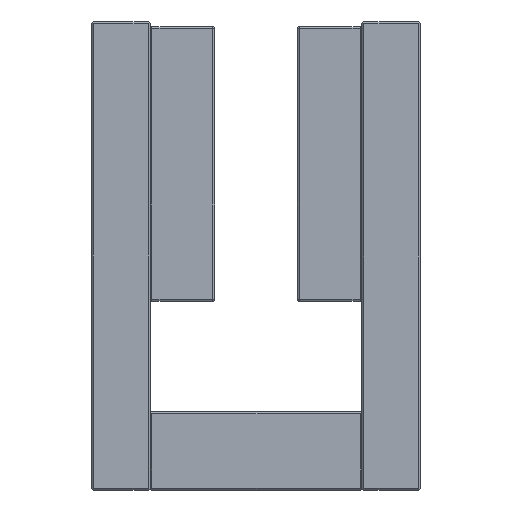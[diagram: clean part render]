
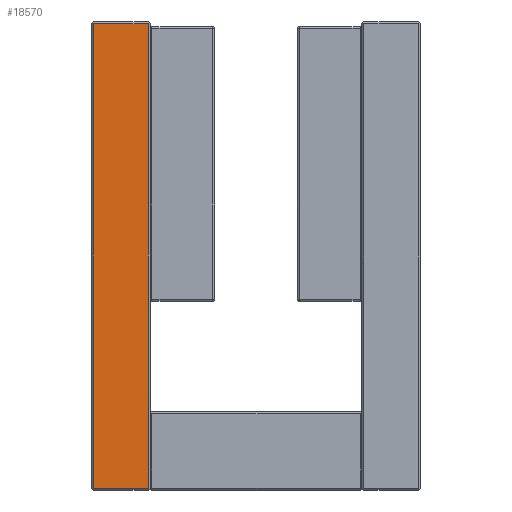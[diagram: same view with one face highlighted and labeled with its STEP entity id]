
A CAD part, front view. The second image highlights one B-rep face of the part: STEP entity #18570.
In plain terms, the highlighted planar face has unit normal (0, -1, 0) as drawn and (0, 1, 0) by its records, which use the part's own axes.
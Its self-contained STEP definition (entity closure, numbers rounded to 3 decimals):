
#342 = DIRECTION ( 'NONE',  ( -1., 0., 0. ) ) ;
#870 = CARTESIAN_POINT ( 'NONE',  ( 0., 239.5, 0. ) ) ;
#2285 = LINE ( 'NONE', #17185, #18428 ) ;
#3260 = VERTEX_POINT ( 'NONE', #14513 ) ;
#3318 = CARTESIAN_POINT ( 'NONE',  ( 50.6, 239.5, -6.15 ) ) ;
#4126 = VECTOR ( 'NONE', #342, 1000. ) ;
#4414 = LINE ( 'NONE', #17250, #8568 ) ;
#4606 = CARTESIAN_POINT ( 'NONE',  ( 50.6, 239.5, -0.2 ) ) ;
#4619 = LINE ( 'NONE', #14323, #4126 ) ;
#4861 = VERTEX_POINT ( 'NONE', #7773 ) ;
#5557 = PLANE ( 'NONE',  #16275 ) ;
#6199 = CARTESIAN_POINT ( 'NONE',  ( 50.8, 239.5, -0.2 ) ) ;
#6239 = DIRECTION ( 'NONE',  ( 0., 0., -1. ) ) ;
#6946 = EDGE_LOOP ( 'NONE', ( #15041, #10984, #18815, #18773 ) ) ;
#7773 = CARTESIAN_POINT ( 'NONE',  ( 0.2, 239.5, -6.15 ) ) ;
#7897 = DIRECTION ( 'NONE',  ( 0., 0., 1. ) ) ;
#8302 = VERTEX_POINT ( 'NONE', #4606 ) ;
#8568 = VECTOR ( 'NONE', #7897, 1000. ) ;
#9332 = DIRECTION ( 'NONE',  ( 1., 0., 0. ) ) ;
#9758 = VECTOR ( 'NONE', #9332, 1000. ) ;
#10984 = ORIENTED_EDGE ( 'NONE', *, *, #16502, .T. ) ;
#11805 = DIRECTION ( 'NONE',  ( 0., 1., 0. ) ) ;
#13532 = VERTEX_POINT ( 'NONE', #3318 ) ;
#13917 = LINE ( 'NONE', #6199, #9758 ) ;
#14323 = CARTESIAN_POINT ( 'NONE',  ( 0., 239.5, -6.15 ) ) ;
#14513 = CARTESIAN_POINT ( 'NONE',  ( 0.2, 239.5, -0.2 ) ) ;
#14525 = EDGE_CURVE ( 'NONE', #3260, #8302, #13917, .T. ) ;
#14711 = EDGE_CURVE ( 'NONE', #13532, #4861, #4619, .T. ) ;
#15041 = ORIENTED_EDGE ( 'NONE', *, *, #14525, .T. ) ;
#16275 = AXIS2_PLACEMENT_3D ( 'NONE', #870, #11805, #16501 ) ;
#16501 = DIRECTION ( 'NONE',  ( 0., 0., 1. ) ) ;
#16502 = EDGE_CURVE ( 'NONE', #8302, #13532, #2285, .T. ) ;
#17185 = CARTESIAN_POINT ( 'NONE',  ( 50.6, 239.5, -6.15 ) ) ;
#17250 = CARTESIAN_POINT ( 'NONE',  ( 0.2, 239.5, -0.2 ) ) ;
#18158 = FACE_OUTER_BOUND ( 'NONE', #6946, .T. ) ;
#18428 = VECTOR ( 'NONE', #6239, 1000. ) ;
#18570 = ADVANCED_FACE ( 'NONE', ( #18158 ), #5557, .T. ) ;
#18773 = ORIENTED_EDGE ( 'NONE', *, *, #19844, .T. ) ;
#18815 = ORIENTED_EDGE ( 'NONE', *, *, #14711, .T. ) ;
#19844 = EDGE_CURVE ( 'NONE', #4861, #3260, #4414, .T. ) ;
